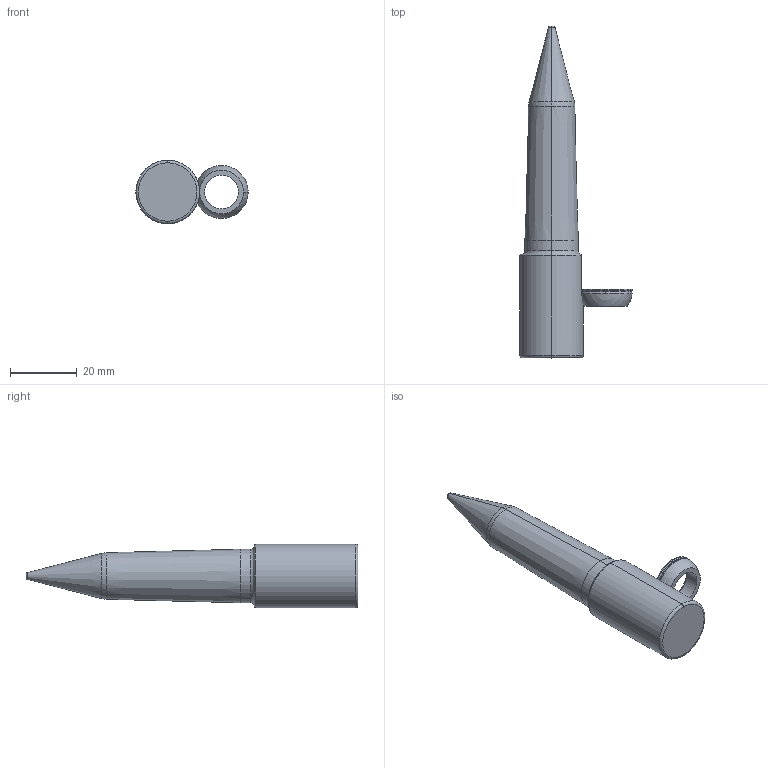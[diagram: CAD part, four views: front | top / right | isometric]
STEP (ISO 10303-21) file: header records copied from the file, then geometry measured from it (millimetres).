
FILE_DESCRIPTION (( 'STEP AP214' ), '1' );
FILE_NAME ('PA-T-16mm-3.2mm-40mm-3-A-F1.STEP', '2019-05-08T18:07:58', ( '' ), ( '' ), 'SwSTEP 2.0', 'SolidWorks 2017', '' );
FILE_SCHEMA (( 'AUTOMOTIVE_DESIGN' ));
Length unit declared in the file: inch
Products named in the file (3): SLRadiusWasher_RadiusWasher-M; SLPilot-PA-T-M_PA-T-16-3.2-40-3-A-F1; PA-T-16mm-3.2mm-40mm-3-A-F1
Assembly tree (2 placements, depth 2):
  PA-T-16mm-3.2mm-40mm-3-A-F1
    SLRadiusWasher_RadiusWasher-M
    SLPilot-PA-T-M_PA-T-16-3.2-40-3-A-F1
Bounding box: 33.54 x 99.18 x 19 mm (x, y, z)
Volume: 18502.5 mm3; surface area: 5444.4 mm2
Topology: 2 solids, 2 shells, 41 faces, 89 edges, 52 vertices
Faces by surface type: torus 15, cylinder 11, cone 6, plane 5, sphere 4
Entity records: 1316 total; most frequent: CARTESIAN_POINT 252, DIRECTION 242, ORIENTED_EDGE 178, AXIS2_PLACEMENT_3D 112, EDGE_CURVE 89, CIRCLE 66, VERTEX_POINT 52, EDGE_LOOP 43
